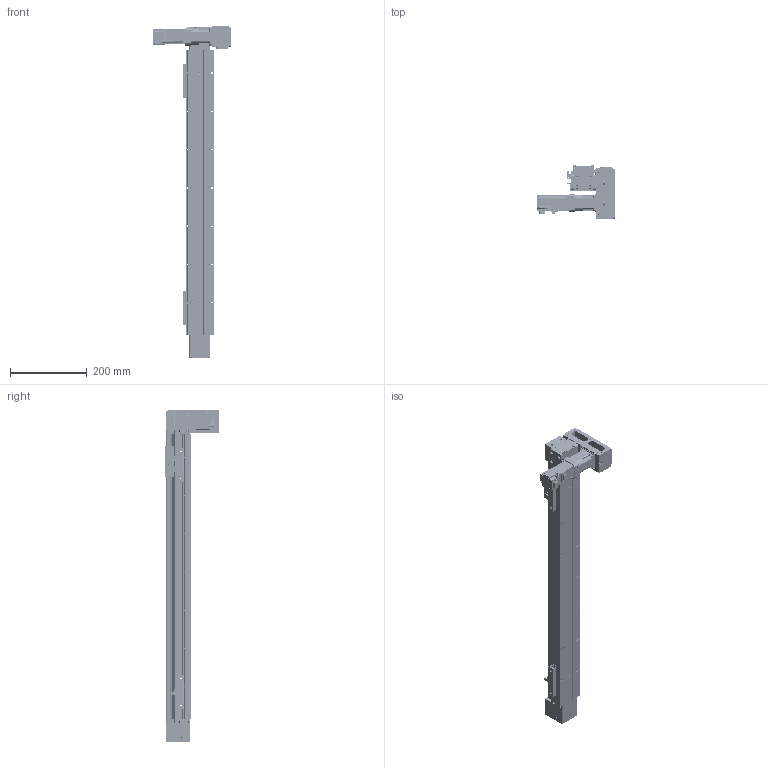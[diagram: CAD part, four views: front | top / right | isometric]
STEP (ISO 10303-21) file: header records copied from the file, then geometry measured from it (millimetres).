
FILE_DESCRIPTION(/* description */ (''),/* implementation_level */ '2;1');
FILE_NAME(/* name */ '\\192.168.0.160\disk1\HAN SHIN Master\B-설계부문\C-표준\B-2024년\BC02-표준도면\+로봇 개선표준도면\홈페이지 표준 도면\홈페이지 최종 작업 폴더\3D\HSB\HSB55\HSB55-DR1G-N-0600-L.stp',/* time_stamp */ '2025-06-19T20:34:12+09:00',/* author */ ('user'),/* organization */ (''),/* preprocessor_version */ 'ST-DEVELOPER v18.1',/* originating_system */ 'Autodesk Inventor 2022',/* authorisation */ '');
FILE_SCHEMA (('AUTOMOTIVE_DESIGN { 1 0 10303 214 3 1 1 }'));
Products named in the file (42): HSB55-DR1G-N-0500-L; HSB55 BASE; HSB55 TABLE; UPCOVER; HSB55 HOUSING (Connecting); HSB55 FRONT HOUSIONG; HSB55 REAR SHAFT-1; HSB55 REAR SHAFT; HSB55 DOWN CLAMP; M4-25(렌치볼트); HSB55 HOUSING-R1; HSB55 TENSION PLATE; ISO 4032 - M4; HSB55 UP CLAMP; M4-12(렌치볼트); SIDE COVER_대칭도; SIDE COVER; HR45 STOPPER; HSB55 ACRYL COVER-R1; HSB55 ACRYL COVER; HSB160 BEARING OVER; HSB55 END COVER; HSB160 SHAFT-1; EC-6202ZZ; EC-6202ZZ Inner ring; EC-6202ZZ Outer ring; EC-6202ZZ St; EC-6202ZZ Ball; EC-6202ZZ B1; HR45 SENSOR DOG; hsr_ftht_A-M6F_grease_nipple_joint; NIPPLE CAP(신규); HR45 SENSOR RAIL; EE_SX674A; PGX44-H-1_3; hg-kr13_; MOTOR PLATE-100W(MITSUBISHI); HSB55 D BELT COVER; HR65-BELT COVER-COVER; HR65-BELT COVER-COVER3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
Assembly tree (64 placements, depth 3):
  HSB55-DR1G-N-0500-L
    HSB55 BASE
    HSB55 TABLE
    UPCOVER
    HSB55 FRONT HOUSIONG  x2
    HSB55 HOUSING (Connecting)
    HSB55 REAR SHAFT-1
    #128756  x2
    HSB55 REAR SHAFT
    HSB55 DOWN CLAMP  x2
    HSB55 UP CLAMP  x2
    M4-25(렌치볼트)
    ISO 4032 - M4  x2
    HSB55 HOUSING-R1
    HSB55 TENSION PLATE  x2
    M4-12(렌치볼트)
    SIDE COVER_대칭도
    SIDE COVER
    HR45 STOPPER  x2
    HSB55 ACRYL COVER  x4
    HSB55 ACRYL COVER-R1
    HSB160 BEARING OVER
    HSB55 END COVER
    HSB160 SHAFT-1
    EC-6202ZZ  x2
      EC-6202ZZ Inner ring
      EC-6202ZZ Outer ring
      EC-6202ZZ B1
      EC-6202ZZ St
      EC-6202ZZ Ball
    HR45 SENSOR DOG
    EE_SX674A  x3
    HR45 SENSOR RAIL  x2
    hsr_ftht_A-M6F_grease_nipple_joint
    NIPPLE CAP(신규)
    PGX44-H-1_3
    hg-kr13_
    MOTOR PLATE-100W(MITSUBISHI)
    HSB55 D BELT COVER
    HR65-BELT COVER-COVER
    HR65-BELT COVER-COVER3
    HSB55 D MOTOR PLATE
    HR65-BELT COVER-COVER2
Bounding box: 201.4 x 142.7 x 867 mm (x, y, z)
Volume: 1777840.4 mm3; surface area: 823777.8 mm2
Topology: 90 solids, 90 shells, 5135 faces, 14031 edges, 9194 vertices
Faces by surface type: plane 3569, cylinder 1209, cone 278, torus 35, sphere 22, bspline 22
Full cylindrical faces by diameter (mm): 1 x2, 2 x3, 2.013 x4, 2.459 x102, 2.5 x5, 3 x3, 3.242 x70, 3.3 x9, 3.4 x16, 3.5 x75, 4 x12, 4.134 x14, 4.2 x4, 4.5 x45, 4.917 x2, 5 x8, 5.5 x1, 5.6 x3, 5.9 x2, 6 x46, 6.5 x4, 7 x6, 7.5 x4, 8 x15, 8.2 x1, 9 x2, 9.5 x2, 10 x1, 11.5 x2, 12 x6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
Entity records: 128714 total; most frequent: CARTESIAN_POINT 26032, ORIENTED_EDGE 21030, DIRECTION 20654, EDGE_CURVE 10515, LINE 7536, VECTOR 7536, VERTEX_POINT 6928, AXIS2_PLACEMENT_3D 6559
